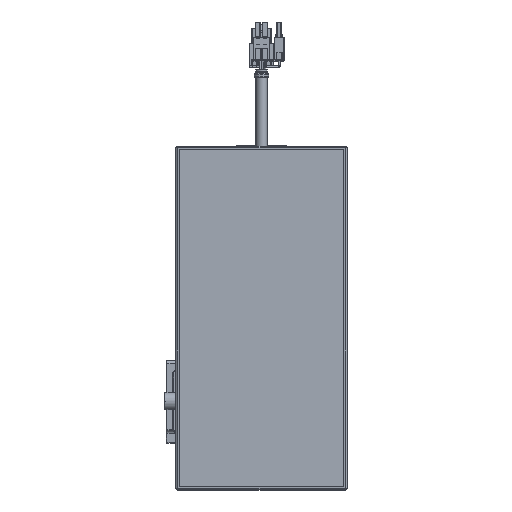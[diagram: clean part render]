
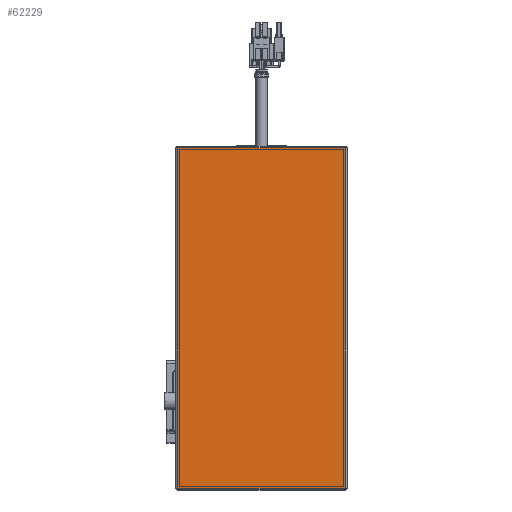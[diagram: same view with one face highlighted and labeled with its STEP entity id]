
A CAD part, top view. The second image highlights one B-rep face of the part: STEP entity #62229.
In plain terms, the highlighted planar face has unit normal (0, 0, 1).
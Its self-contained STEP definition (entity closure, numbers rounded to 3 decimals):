
#62190=CARTESIAN_POINT('',(-52.5,50.5,522.5));
#62191=DIRECTION('',(0.,1.,0.));
#62192=DIRECTION('',(0.,-0.,1.));
#62193=AXIS2_PLACEMENT_3D('',#62190,#62192,#62191);
#62194=PLANE('',#62193);
#62195=CARTESIAN_POINT('',(51.,-53.,522.5));
#62196=VERTEX_POINT('',#62195);
#62197=CARTESIAN_POINT('',(51.,154.,522.5));
#62198=VERTEX_POINT('',#62197);
#62199=CARTESIAN_POINT('',(51.,-53.,522.5));
#62200=DIRECTION('',(0.,1.,0.));
#62201=VECTOR('',#62200,207.);
#62202=LINE('',#62199,#62201);
#62203=EDGE_CURVE('',#62196,#62198,#62202,.T.);
#62204=ORIENTED_EDGE('E8844',*,*,#62203,.T.);
#62205=CARTESIAN_POINT('',(-51.,154.,522.5));
#62206=VERTEX_POINT('',#62205);
#62207=CARTESIAN_POINT('',(51.,154.,522.5));
#62208=DIRECTION('',(-1.,0.,0.));
#62209=VECTOR('',#62208,102.);
#62210=LINE('',#62207,#62209);
#62211=EDGE_CURVE('',#62198,#62206,#62210,.T.);
#62212=ORIENTED_EDGE('E8845',*,*,#62211,.T.);
#62213=CARTESIAN_POINT('',(-51.,-53.,522.5));
#62214=VERTEX_POINT('',#62213);
#62215=CARTESIAN_POINT('',(-51.,154.,522.5));
#62216=DIRECTION('',(0.,-1.,0.));
#62217=VECTOR('',#62216,207.);
#62218=LINE('',#62215,#62217);
#62219=EDGE_CURVE('',#62206,#62214,#62218,.T.);
#62220=ORIENTED_EDGE('E8846',*,*,#62219,.T.);
#62221=CARTESIAN_POINT('',(-51.,-53.,522.5));
#62222=DIRECTION('',(1.,0.,0.));
#62223=VECTOR('',#62222,102.);
#62224=LINE('',#62221,#62223);
#62225=EDGE_CURVE('',#62214,#62196,#62224,.T.);
#62226=ORIENTED_EDGE('E8847',*,*,#62225,.T.);
#62227=EDGE_LOOP('',(#62204,#62212,#62220,#62226));
#62228=FACE_OUTER_BOUND('',#62227,.T.);
#62229=ADVANCED_FACE('F3358',(#62228),#62194,.T.);
